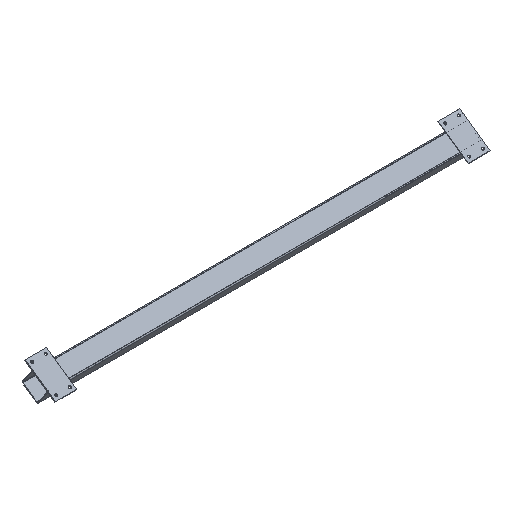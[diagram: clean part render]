
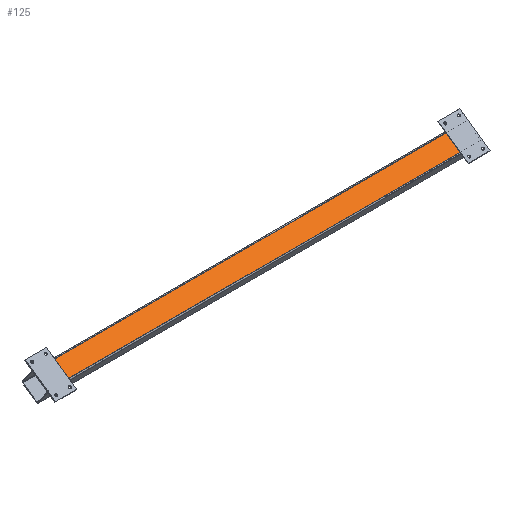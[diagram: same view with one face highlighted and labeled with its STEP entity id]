
A CAD part, isometric view. The second image highlights one B-rep face of the part: STEP entity #125.
In plain terms, the highlighted planar face has unit normal (0, -0.574, 0.819).
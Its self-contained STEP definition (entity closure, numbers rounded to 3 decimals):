
#77=FACE_OUTER_BOUND('',#351,.T.);
#125=ADVANCED_FACE('',(#77),#151,.T.);
#151=PLANE('',#786);
#184=LINE('',#1109,#240);
#187=LINE('',#1122,#243);
#196=LINE('',#1136,#252);
#201=LINE('',#1142,#257);
#240=VECTOR('',#907,1.);
#243=VECTOR('',#918,1.);
#252=VECTOR('',#937,1.);
#257=VECTOR('',#944,1.);
#351=EDGE_LOOP('',(#500,#501,#502,#503));
#500=ORIENTED_EDGE('',*,*,#681,.T.);
#501=ORIENTED_EDGE('',*,*,#667,.T.);
#502=ORIENTED_EDGE('',*,*,#676,.F.);
#503=ORIENTED_EDGE('',*,*,#661,.T.);
#592=VERTEX_POINT('',#1107);
#594=VERTEX_POINT('',#1110);
#597=VERTEX_POINT('',#1117);
#599=VERTEX_POINT('',#1121);
#661=EDGE_CURVE('',#594,#592,#184,.T.);
#667=EDGE_CURVE('',#597,#599,#187,.T.);
#676=EDGE_CURVE('',#594,#599,#196,.T.);
#681=EDGE_CURVE('',#592,#597,#201,.T.);
#786=AXIS2_PLACEMENT_3D('',#1147,#951,#952);
#907=DIRECTION('',(-1.,0.,0.));
#918=DIRECTION('',(1.,0.,0.));
#937=DIRECTION('',(0.,-0.819,-0.574));
#944=DIRECTION('',(0.,-0.819,-0.574));
#951=DIRECTION('',(0.,-0.574,0.819));
#952=DIRECTION('',(0.,-0.819,-0.574));
#1107=CARTESIAN_POINT('',(-1030.5,1739.144,834.876));
#1109=CARTESIAN_POINT('',(-1020.5,1739.144,834.876));
#1110=CARTESIAN_POINT('',(1189.5,1739.144,834.876));
#1117=CARTESIAN_POINT('',(-1030.5,1667.059,784.401));
#1121=CARTESIAN_POINT('',(1189.5,1667.059,784.401));
#1122=CARTESIAN_POINT('',(-1020.5,1667.059,784.401));
#1136=CARTESIAN_POINT('',(1189.5,1744.059,838.318));
#1142=CARTESIAN_POINT('',(-1030.5,1744.059,838.318));
#1147=CARTESIAN_POINT('',(-1020.5,1744.059,838.318));
